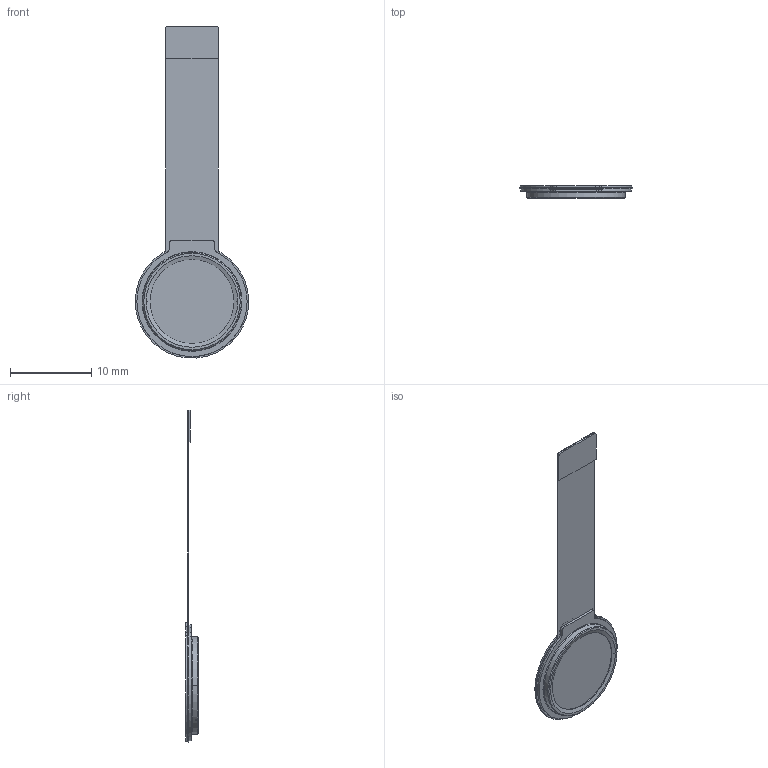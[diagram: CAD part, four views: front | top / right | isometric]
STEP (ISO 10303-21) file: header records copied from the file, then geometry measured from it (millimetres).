
FILE_DESCRIPTION((''),'2;1');
FILE_NAME('MAGMA_ASM_ASM_ASM','2024-05-13T09:21:08',('zgy1sz'),(''),'CREO PARAMETRIC BY PTC INC, 2019010','CREO PARAMETRIC BY PTC INC, 2019010','');
FILE_SCHEMA(('CONFIG_CONTROL_DESIGN','SHAPE_APPEARANCE_LAYERS_GROUPS'));
Length unit declared in the file: millimetre
Products named in the file (8): FPC_1_1; SUS_1_1; IC_1_1; BEZEL_1_1; MAGMA_ASM_1_ASM_1_ASM; MAGMA_ASM_ASM_1_ASM; PI; MAGMA_ASM_ASM_ASM
Assembly tree (7 placements, depth 4):
  MAGMA_ASM_ASM_ASM
    MAGMA_ASM_ASM_1_ASM
      MAGMA_ASM_1_ASM_1_ASM
        FPC_1_1
        SUS_1_1
        IC_1_1
        BEZEL_1_1
    PI
Bounding box: 13.99 x 1.5 x 40.97 mm (x, y, z)
Volume: 185.1 mm3; surface area: 1476.7 mm2
Topology: 5 solids, 5 shells, 117 faces, 356 edges, 252 vertices
Faces by surface type: plane 74, cylinder 33, cone 8, torus 2
Entity records: 5580 total; most frequent: DIRECTION 762, CARTESIAN_POINT 745, ORIENTED_EDGE 712, PRESENTATION_STYLE_ASSIGNMENT 373, STYLED_ITEM 361, CURVE_STYLE 356, EDGE_CURVE 356, AXIS2_PLACEMENT_3D 269
